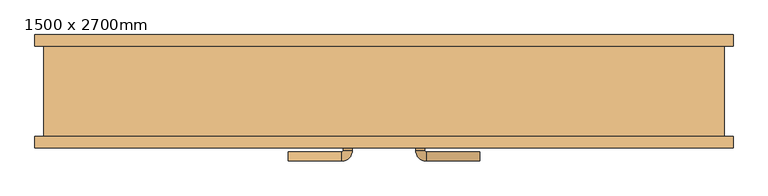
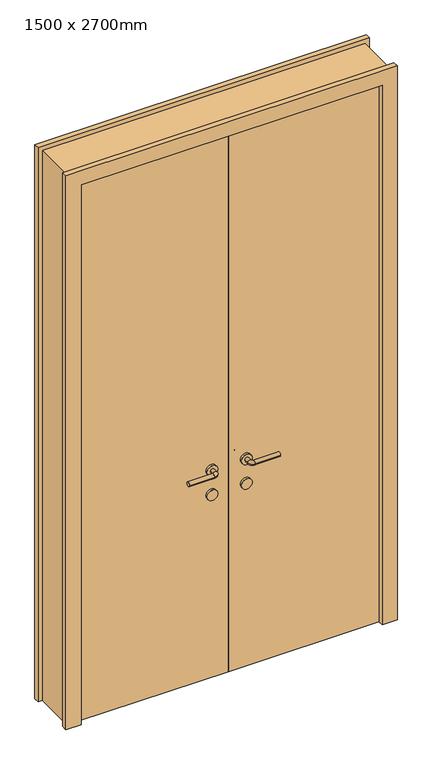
"""IFC4 building model written with IfcOpenShell, lengths in millimetres: door geometry, 双面嵌板木门 1 : 1500 x 2700mm."""

from ifc_helpers import new_model, si_unit, point, frame, frame_2d, origin, origin_with_axes, place, context, project, spatial, polyline, circle_curve, ellipse_curve, trimmed, segment, composite_curve, outline, extrude, source, transform, mapped, element, save
from ifc_brep_helpers import plane_surface, cylinder_surface, revolved_surface, advanced_brep


def door_1500_x_2700mm_deb20012(model_context):
    return source(origin(), model_context, "Body", "SolidModel", [
        extrude(outline(composite_curve([segment(trimmed(circle_curve(frame_2d((900.0, 80.0)), 25.0), [point((900.0, 105.0))], [point((900.0, 55.0))], False, "CARTESIAN"), True, "CONTINUOUS"), segment(trimmed(circle_curve(frame_2d((900.0, 80.0)), 25.0), [point((900.0, 55.0))], [point((900.0, 105.0))], False, "CARTESIAN"), True, "CONTINUOUS")], self_intersect=False)), frame((0.0, -110.0, 0.0), z_axis=(0.0, 1.0, 0.0), x_axis=(0.0, 0.0, 1.0)), (0.0, 0.0, 1.0), 10.0),
        extrude(outline(composite_curve([segment(trimmed(circle_curve(frame_2d((900.0, 80.0)), 25.0), [point((900.0, 105.0))], [point((900.0, 55.0))], False, "CARTESIAN"), True, "CONTINUOUS"), segment(trimmed(circle_curve(frame_2d((900.0, 80.0)), 25.0), [point((900.0, 55.0))], [point((900.0, 105.0))], False, "CARTESIAN"), True, "CONTINUOUS")], self_intersect=False)), frame((0.0, -60.0, 0.0), z_axis=(0.0, 1.0, 0.0), x_axis=(0.0, 0.0, 1.0)), (0.0, 0.0, 1.0), 10.0),
        advanced_brep(
        [(70.0, -110.0, 1020.0), (90.0, -110.0, 1020.0), (90.0, -130.6133551, 1020.0), (70.0, -130.6133551, 1020.0), (211.580964, -153.580964, 1020.0), (211.580964, -133.580964, 1020.0), (92.9676089, -133.580964, 1020.0), (92.9676089, -153.580964, 1020.0)],
        [
            (0, 1, circle_curve(frame((80.0, -110.0, 1020.0), z_axis=(0.0, 1.0, 0.0), x_axis=(1.0, 0.0, 0.0)), 10.0)),
            (1, 0, circle_curve(frame((80.0, -110.0, 1020.0), z_axis=(0.0, 1.0, 0.0), x_axis=(1.0, 0.0, 0.0)), 10.0)),
            (1, 2),
            (2, 3, circle_curve(frame((80.0, -130.6133551, 1020.0), z_axis=(0.0, 1.0, 0.0), x_axis=(1.0, 0.0, 0.0)), 10.0)),
            (3, 0),
            (3, 2, circle_curve(frame((80.0, -130.6133551, 1020.0), z_axis=(0.0, 1.0, 0.0), x_axis=(1.0, 0.0, 0.0)), 10.0)),
            (4, 5, circle_curve(frame((211.580964, -143.580964, 1020.0), z_axis=(1.0, 0.0, 0.0), x_axis=(0.0, 1.0, 0.0)), 10.0)),
            (5, 4, circle_curve(frame((211.580964, -143.580964, 1020.0), z_axis=(1.0, 0.0, 0.0), x_axis=(0.0, 1.0, 0.0)), 10.0)),
            (6, 2, circle_curve(frame((92.9676089, -130.6133551, 1020.0), z_axis=(0.0, 0.0, -1.0), x_axis=(-1.0, 0.0, 0.0)), 2.9676089)),
            (3, 7, circle_curve(frame((92.9676089, -130.6133551, 1020.0), z_axis=(0.0, 0.0, 1.0), x_axis=(-1.0, 0.0, 0.0)), 22.9676089)),
            (7, 6, circle_curve(frame((92.9676089, -143.580964, 1020.0), z_axis=(-1.0, 0.0, 0.0), x_axis=(0.0, 1.0, 0.0)), 10.0)),
            (6, 7, circle_curve(frame((92.9676089, -143.580964, 1020.0), z_axis=(-1.0, 0.0, 0.0), x_axis=(0.0, 1.0, 0.0)), 10.0)),
            (7, 4),
            (5, 6),
        ],
        [
            plane_surface(frame((80.0, -110.0, 900.0), z_axis=(0.0, 1.0, 0.0), x_axis=(0.0, 0.0, 1.0))),
            cylinder_surface(frame((80.0, -110.0, 1020.0), z_axis=(0.0, 1.0, 0.0), x_axis=(1.0, 0.0, 0.0)), 10.0),
            plane_surface(frame((211.580964, -143.580964, 900.0), z_axis=(1.0, 0.0, 0.0), x_axis=(0.0, 0.0, 1.0))),
            revolved_surface(trimmed(ellipse_curve(frame((80.0, -130.6133551, 1020.0), z_axis=(0.0, 1.0, 0.0), x_axis=(1.0, 0.0, 0.0)), 10.0, 10.0), [point((70.0, -130.6133551, 1020.0))], [point((90.0, -130.6133551, 1020.0))], True, "CARTESIAN"), (92.9676089, -130.6133551, 900.0), (0.0, 0.0, 1.0)),
            revolved_surface(trimmed(ellipse_curve(frame((80.0, -130.6133551, 1020.0), z_axis=(0.0, 1.0, 0.0), x_axis=(1.0, 0.0, 0.0)), 10.0, 10.0), [point((90.0, -130.6133551, 1020.0))], [point((70.0, -130.6133551, 1020.0))], True, "CARTESIAN"), (92.9676089, -130.6133551, 900.0), (0.0, 0.0, 1.0)),
            cylinder_surface(frame((92.9676089, -143.580964, 1020.0), z_axis=(-1.0, 0.0, 0.0), x_axis=(0.0, 1.0, 0.0)), 10.0),
        ],
        [
            (0, [[1, 2]]),
            (1, [[-2, 3, 4, 5]]),
            (1, [[-1, -5, 6, -3]]),
            (2, [[7, 8]]),
            (3, [[9, -6, 10, 11]]),
            (4, [[-10, -4, -9, 12]]),
            (5, [[-11, 13, -8, 14]]),
            (5, [[-12, -14, -7, -13]]),
        ],
    ),
        extrude(outline(composite_curve([segment(trimmed(circle_curve(frame_2d((1020.0, 80.0)), 25.0), [point((1020.0, 105.0))], [point((1020.0, 55.0))], False, "CARTESIAN"), True, "CONTINUOUS"), segment(trimmed(circle_curve(frame_2d((1020.0, 80.0)), 25.0), [point((1020.0, 55.0))], [point((1020.0, 105.0))], False, "CARTESIAN"), True, "CONTINUOUS")], self_intersect=False)), frame((0.0, -110.0, 0.0), z_axis=(0.0, 1.0, 0.0), x_axis=(0.0, 0.0, 1.0)), (0.0, 0.0, 1.0), 10.0),
        advanced_brep(
        [(90.0, -50.0, 1020.0), (70.0, -50.0, 1020.0), (90.0, -29.386645, 1020.0), (70.0, -29.386645, 1020.0), (211.580964, -26.419036, 1020.0), (211.580964, -6.419036, 1020.0), (92.9676089, -6.419036, 1020.0), (92.9676089, -26.419036, 1020.0)],
        [
            (0, 1, circle_curve(frame((80.0, -50.0, 1020.0), z_axis=(0.0, -1.0, 0.0), x_axis=(-1.0, 0.0, 0.0)), 10.0)),
            (1, 0, circle_curve(frame((80.0, -50.0, 1020.0), z_axis=(0.0, -1.0, 0.0), x_axis=(-1.0, 0.0, 0.0)), 10.0)),
            (0, 2),
            (2, 3, circle_curve(frame((80.0, -29.386645, 1020.0), z_axis=(0.0, -1.0, 0.0), x_axis=(-1.0, 0.0, 0.0)), 10.0)),
            (3, 1),
            (3, 2, circle_curve(frame((80.0, -29.386645, 1020.0), z_axis=(0.0, -1.0, 0.0), x_axis=(-1.0, 0.0, 0.0)), 10.0)),
            (4, 5, circle_curve(frame((211.580964, -16.419036, 1020.0), z_axis=(1.0, 0.0, 0.0), x_axis=(0.0, 1.0, 0.0)), 10.0)),
            (5, 4, circle_curve(frame((211.580964, -16.419036, 1020.0), z_axis=(1.0, 0.0, 0.0), x_axis=(0.0, 1.0, 0.0)), 10.0)),
            (6, 3, circle_curve(frame((92.9676089, -29.386645, 1020.0), z_axis=(0.0, 0.0, 1.0), x_axis=(-1.0, 0.0, 0.0)), 22.9676089)),
            (2, 7, circle_curve(frame((92.9676089, -29.386645, 1020.0), z_axis=(0.0, 0.0, -1.0), x_axis=(-1.0, 0.0, 0.0)), 2.9676089)),
            (7, 6, circle_curve(frame((92.9676089, -16.419036, 1020.0), z_axis=(-1.0, 0.0, 0.0), x_axis=(0.0, 1.0, 0.0)), 10.0)),
            (6, 7, circle_curve(frame((92.9676089, -16.419036, 1020.0), z_axis=(-1.0, 0.0, 0.0), x_axis=(0.0, 1.0, 0.0)), 10.0)),
            (7, 4),
            (5, 6),
        ],
        [
            plane_surface(frame((80.0, -50.0, 900.0), z_axis=(0.0, -1.0, 0.0), x_axis=(0.0, 0.0, 1.0))),
            cylinder_surface(frame((80.0, -50.0, 1020.0), z_axis=(0.0, -1.0, 0.0), x_axis=(-1.0, 0.0, 0.0)), 10.0),
            plane_surface(frame((211.580964, -16.419036, 900.0), z_axis=(1.0, 0.0, 0.0), x_axis=(0.0, 0.0, 1.0))),
            revolved_surface(trimmed(ellipse_curve(frame((80.0, -29.386645, 1020.0), z_axis=(0.0, -1.0, 0.0), x_axis=(-1.0, 0.0, 0.0)), 10.0, 10.0), [point((90.0, -29.386645, 1020.0))], [point((70.0, -29.386645, 1020.0))], True, "CARTESIAN"), (92.9676089, -29.386645, 900.0), (0.0, 0.0, -1.0)),
            revolved_surface(trimmed(ellipse_curve(frame((80.0, -29.386645, 1020.0), z_axis=(0.0, -1.0, 0.0), x_axis=(-1.0, 0.0, 0.0)), 10.0, 10.0), [point((70.0, -29.386645, 1020.0))], [point((90.0, -29.386645, 1020.0))], True, "CARTESIAN"), (92.9676089, -29.386645, 900.0), (0.0, 0.0, -1.0)),
            cylinder_surface(frame((92.9676089, -16.419036, 1020.0), z_axis=(-1.0, 0.0, 0.0), x_axis=(0.0, 1.0, 0.0)), 10.0),
        ],
        [
            (0, [[1, 2]]),
            (1, [[-1, 3, 4, 5]]),
            (1, [[-2, -5, 6, -3]]),
            (2, [[7, 8]]),
            (3, [[9, -4, 10, 11]]),
            (4, [[-10, -6, -9, 12]]),
            (5, [[-11, 13, -8, 14]]),
            (5, [[-12, -14, -7, -13]]),
        ],
    ),
        extrude(outline(composite_curve([segment(trimmed(circle_curve(frame_2d((1020.0, 80.0)), 25.0), [point((1020.0, 105.0))], [point((1020.0, 55.0))], False, "CARTESIAN"), True, "CONTINUOUS"), segment(trimmed(circle_curve(frame_2d((1020.0, 80.0)), 25.0), [point((1020.0, 55.0))], [point((1020.0, 105.0))], False, "CARTESIAN"), True, "CONTINUOUS")], self_intersect=False)), frame((0.0, -60.0, 0.0), z_axis=(0.0, 1.0, 0.0), x_axis=(0.0, 0.0, 1.0)), (0.0, 0.0, 1.0), 10.0),
        extrude(outline(composite_curve([segment(trimmed(circle_curve(frame_2d((900.0, -80.0)), 25.0), [point((900.0, -105.0))], [point((900.0, -55.0))], False, "CARTESIAN"), True, "CONTINUOUS"), segment(trimmed(circle_curve(frame_2d((900.0, -80.0)), 25.0), [point((900.0, -55.0))], [point((900.0, -105.0))], False, "CARTESIAN"), True, "CONTINUOUS")], self_intersect=False)), frame((0.0, -110.0, 0.0), z_axis=(0.0, 1.0, 0.0), x_axis=(0.0, 0.0, 1.0)), (0.0, 0.0, 1.0), 10.0),
        extrude(outline(composite_curve([segment(trimmed(circle_curve(frame_2d((900.0, -80.0)), 25.0), [point((900.0, -105.0))], [point((900.0, -55.0))], False, "CARTESIAN"), True, "CONTINUOUS"), segment(trimmed(circle_curve(frame_2d((900.0, -80.0)), 25.0), [point((900.0, -55.0))], [point((900.0, -105.0))], False, "CARTESIAN"), True, "CONTINUOUS")], self_intersect=False)), frame((0.0, -60.0, 0.0), z_axis=(0.0, 1.0, 0.0), x_axis=(0.0, 0.0, 1.0)), (0.0, 0.0, 1.0), 10.0),
        advanced_brep(
        [(-70.0, -110.0, 1020.0), (-90.0, -110.0, 1020.0), (-70.0, -130.6133551, 1020.0), (-90.0, -130.6133551, 1020.0), (-211.580964, -153.580964, 1020.0), (-211.580964, -133.580964, 1020.0), (-92.9676089, -133.580964, 1020.0), (-92.9676089, -153.580964, 1020.0)],
        [
            (0, 1, circle_curve(frame((-80.0, -110.0, 1020.0), z_axis=(0.0, 1.0, 0.0), x_axis=(-1.0, 0.0, 0.0)), 10.0)),
            (1, 0, circle_curve(frame((-80.0, -110.0, 1020.0), z_axis=(0.0, 1.0, 0.0), x_axis=(-1.0, 0.0, 0.0)), 10.0)),
            (0, 2),
            (2, 3, circle_curve(frame((-80.0, -130.6133551, 1020.0), z_axis=(0.0, 1.0, 0.0), x_axis=(-1.0, 0.0, 0.0)), 10.0)),
            (3, 1),
            (3, 2, circle_curve(frame((-80.0, -130.6133551, 1020.0), z_axis=(0.0, 1.0, 0.0), x_axis=(-1.0, 0.0, 0.0)), 10.0)),
            (4, 5, circle_curve(frame((-211.580964, -143.580964, 1020.0), z_axis=(-1.0, 0.0, 0.0), x_axis=(0.0, 1.0, 0.0)), 10.0)),
            (5, 4, circle_curve(frame((-211.580964, -143.580964, 1020.0), z_axis=(-1.0, 0.0, 0.0), x_axis=(0.0, 1.0, 0.0)), 10.0)),
            (6, 7, circle_curve(frame((-92.9676089, -143.580964, 1020.0), z_axis=(1.0, 0.0, 0.0), x_axis=(0.0, 1.0, 0.0)), 10.0)),
            (7, 2, circle_curve(frame((-92.9676089, -130.6133551, 1020.0), z_axis=(0.0, 0.0, 1.0), x_axis=(1.0, 0.0, 0.0)), 22.9676089)),
            (3, 6, circle_curve(frame((-92.9676089, -130.6133551, 1020.0), z_axis=(0.0, 0.0, -1.0), x_axis=(1.0, 0.0, 0.0)), 2.9676089)),
            (7, 6, circle_curve(frame((-92.9676089, -143.580964, 1020.0), z_axis=(1.0, 0.0, 0.0), x_axis=(0.0, 1.0, 0.0)), 10.0)),
            (6, 5),
            (4, 7),
        ],
        [
            plane_surface(frame((-80.0, -110.0, 900.0), z_axis=(0.0, 1.0, 0.0), x_axis=(0.0, 0.0, 1.0))),
            cylinder_surface(frame((-80.0, -110.0, 1020.0), z_axis=(0.0, 1.0, 0.0), x_axis=(-1.0, 0.0, 0.0)), 10.0),
            plane_surface(frame((-211.580964, -143.580964, 900.0), z_axis=(-1.0, 0.0, 0.0), x_axis=(0.0, 0.0, 1.0))),
            revolved_surface(trimmed(ellipse_curve(frame((-80.0, -130.6133551, 1020.0), z_axis=(0.0, -1.0, 0.0), x_axis=(-1.0, 0.0, 0.0)), 10.0, 10.0), [point((-70.0, -130.6133551, 1020.0))], [point((-90.0, -130.6133551, 1020.0))], True, "CARTESIAN"), (-92.9676089, -130.6133551, 900.0), (0.0, 0.0, 1.0)),
            revolved_surface(trimmed(ellipse_curve(frame((-80.0, -130.6133551, 1020.0), z_axis=(0.0, -1.0, 0.0), x_axis=(-1.0, 0.0, 0.0)), 10.0, 10.0), [point((-90.0, -130.6133551, 1020.0))], [point((-70.0, -130.6133551, 1020.0))], True, "CARTESIAN"), (-92.9676089, -130.6133551, 900.0), (0.0, 0.0, 1.0)),
            cylinder_surface(frame((-92.9676089, -143.580964, 1020.0), z_axis=(1.0, 0.0, 0.0), x_axis=(0.0, 1.0, 0.0)), 10.0),
        ],
        [
            (0, [[1, 2]]),
            (1, [[3, 4, 5, -1]]),
            (1, [[-5, 6, -3, -2]]),
            (2, [[7, 8]]),
            (3, [[9, 10, -6, 11]]),
            (4, [[12, -11, -4, -10]]),
            (5, [[13, -7, 14, -9]]),
            (5, [[-14, -8, -13, -12]]),
        ],
    ),
        extrude(outline(composite_curve([segment(trimmed(circle_curve(frame_2d((1020.0, -80.0)), 25.0), [point((1020.0, -105.0))], [point((1020.0, -55.0))], False, "CARTESIAN"), True, "CONTINUOUS"), segment(trimmed(circle_curve(frame_2d((1020.0, -80.0)), 25.0), [point((1020.0, -55.0))], [point((1020.0, -105.0))], False, "CARTESIAN"), True, "CONTINUOUS")], self_intersect=False)), frame((0.0, -110.0, 0.0), z_axis=(0.0, 1.0, 0.0), x_axis=(0.0, 0.0, 1.0)), (0.0, 0.0, 1.0), 10.0),
        advanced_brep(
        [(-90.0, -50.0, 1020.0), (-70.0, -50.0, 1020.0), (-70.0, -29.386645, 1020.0), (-90.0, -29.386645, 1020.0), (-211.580964, -26.419036, 1020.0), (-211.580964, -6.419036, 1020.0), (-92.9676089, -6.419036, 1020.0), (-92.9676089, -26.419036, 1020.0)],
        [
            (0, 1, circle_curve(frame((-80.0, -50.0, 1020.0), z_axis=(0.0, -1.0, 0.0), x_axis=(1.0, 0.0, 0.0)), 10.0)),
            (1, 0, circle_curve(frame((-80.0, -50.0, 1020.0), z_axis=(0.0, -1.0, 0.0), x_axis=(1.0, 0.0, 0.0)), 10.0)),
            (1, 2),
            (2, 3, circle_curve(frame((-80.0, -29.386645, 1020.0), z_axis=(0.0, -1.0, 0.0), x_axis=(1.0, 0.0, 0.0)), 10.0)),
            (3, 0),
            (3, 2, circle_curve(frame((-80.0, -29.386645, 1020.0), z_axis=(0.0, -1.0, 0.0), x_axis=(1.0, 0.0, 0.0)), 10.0)),
            (4, 5, circle_curve(frame((-211.580964, -16.419036, 1020.0), z_axis=(-1.0, 0.0, 0.0), x_axis=(0.0, 1.0, 0.0)), 10.0)),
            (5, 4, circle_curve(frame((-211.580964, -16.419036, 1020.0), z_axis=(-1.0, 0.0, 0.0), x_axis=(0.0, 1.0, 0.0)), 10.0)),
            (6, 7, circle_curve(frame((-92.9676089, -16.419036, 1020.0), z_axis=(1.0, 0.0, 0.0), x_axis=(0.0, 1.0, 0.0)), 10.0)),
            (7, 3, circle_curve(frame((-92.9676089, -29.386645, 1020.0), z_axis=(0.0, 0.0, -1.0), x_axis=(1.0, 0.0, 0.0)), 2.9676089)),
            (2, 6, circle_curve(frame((-92.9676089, -29.386645, 1020.0), z_axis=(0.0, 0.0, 1.0), x_axis=(1.0, 0.0, 0.0)), 22.9676089)),
            (7, 6, circle_curve(frame((-92.9676089, -16.419036, 1020.0), z_axis=(1.0, 0.0, 0.0), x_axis=(0.0, 1.0, 0.0)), 10.0)),
            (6, 5),
            (4, 7),
        ],
        [
            plane_surface(frame((-80.0, -50.0, 900.0), z_axis=(0.0, -1.0, 0.0), x_axis=(0.0, 0.0, 1.0))),
            cylinder_surface(frame((-80.0, -50.0, 1020.0), z_axis=(0.0, -1.0, 0.0), x_axis=(1.0, 0.0, 0.0)), 10.0),
            plane_surface(frame((-211.580964, -16.419036, 900.0), z_axis=(-1.0, 0.0, 0.0), x_axis=(0.0, 0.0, 1.0))),
            revolved_surface(trimmed(ellipse_curve(frame((-80.0, -29.386645, 1020.0), z_axis=(0.0, 1.0, 0.0), x_axis=(1.0, 0.0, 0.0)), 10.0, 10.0), [point((-90.0, -29.386645, 1020.0))], [point((-70.0, -29.386645, 1020.0))], True, "CARTESIAN"), (-92.9676089, -29.386645, 900.0), (0.0, 0.0, -1.0)),
            revolved_surface(trimmed(ellipse_curve(frame((-80.0, -29.386645, 1020.0), z_axis=(0.0, 1.0, 0.0), x_axis=(1.0, 0.0, 0.0)), 10.0, 10.0), [point((-70.0, -29.386645, 1020.0))], [point((-90.0, -29.386645, 1020.0))], True, "CARTESIAN"), (-92.9676089, -29.386645, 900.0), (0.0, 0.0, -1.0)),
            cylinder_surface(frame((-92.9676089, -16.419036, 1020.0), z_axis=(1.0, 0.0, 0.0), x_axis=(0.0, 1.0, 0.0)), 10.0),
        ],
        [
            (0, [[1, 2]]),
            (1, [[3, 4, 5, -2]]),
            (1, [[-5, 6, -3, -1]]),
            (2, [[7, 8]]),
            (3, [[9, 10, -4, 11]]),
            (4, [[12, -11, -6, -10]]),
            (5, [[13, -7, 14, -9]]),
            (5, [[-14, -8, -13, -12]]),
        ],
    ),
        extrude(outline(composite_curve([segment(trimmed(circle_curve(frame_2d((1020.0, -80.0)), 25.0), [point((1020.0, -105.0))], [point((1020.0, -55.0))], False, "CARTESIAN"), True, "CONTINUOUS"), segment(trimmed(circle_curve(frame_2d((1020.0, -80.0)), 25.0), [point((1020.0, -55.0))], [point((1020.0, -105.0))], False, "CARTESIAN"), True, "CONTINUOUS")], self_intersect=False)), frame((0.0, -60.0, 0.0), z_axis=(0.0, 1.0, 0.0), x_axis=(0.0, 0.0, 1.0)), (0.0, 0.0, 1.0), 10.0),
        extrude(outline(polyline([(0.0, 770.0), (2720.0, 770.0), (2720.0, -770.0), (0.0, -770.0), (0.0, -700.0), (2650.0, -700.0), (2650.0, 700.0), (0.0, 700.0), (0.0, 770.0)])), frame((0.0, -125.0, 0.0), z_axis=(0.0, 1.0, 0.0), x_axis=(0.0, 0.0, 1.0)), (0.0, 0.0, 1.0), 25.0),
        extrude(outline(polyline([(2720.0, 770.0), (2720.0, -770.0), (0.0, -770.0), (0.0, -700.0), (2650.0, -700.0), (2650.0, 700.0), (0.0, 700.0), (0.0, 770.0), (2720.0, 770.0)])), frame((0.0, 100.0, 0.0), z_axis=(0.0, 1.0, 0.0), x_axis=(0.0, 0.0, 1.0)), (0.0, 0.0, 1.0), 25.0),
        extrude(outline(polyline([(700.0, -60.0), (700.0, -100.0), (0.0, -100.0), (0.0, -60.0), (700.0, -60.0)])), origin_with_axes(), (0.0, 0.0, 1.0), 2650.0),
        extrude(outline(polyline([(0.0, -60.0), (0.0, -100.0), (-700.0, -100.0), (-700.0, -60.0), (0.0, -60.0)])), origin_with_axes(), (0.0, 0.0, 1.0), 2650.0),
        extrude(outline(polyline([(2700.0, -750.0), (0.0, -750.0), (0.0, -700.0), (2650.0, -700.0), (2650.0, 700.0), (0.0, 700.0), (0.0, 750.0), (2700.0, 750.0), (2700.0, -750.0)])), frame((0.0, -100.0, 0.0), z_axis=(0.0, 1.0, 0.0), x_axis=(0.0, 0.0, 1.0)), (0.0, 0.0, 1.0), 200.0),
    ])


if __name__ == "__main__":
    model = new_model("IFC4")
    model_context = context("Model", 3, world=origin())
    ifc_project = project(units=[si_unit("LENGTHUNIT", "METRE", prefix="MILLI")], contexts=[model_context])
    site = spatial("IfcSite", under=ifc_project)
    building = spatial("IfcBuilding", under=site)
    placement = place(None, origin())
    door_1500_x_2700mm_shape = door_1500_x_2700mm_deb20012(model_context)
    element("IfcDoor", 1, ObjectType="双面嵌板木门 1 : 1500 x 2700mm", at=placement, inside=building, context=model_context, shape_type="MappedRepresentation", body=[
        mapped(door_1500_x_2700mm_shape, transform((0.0, 0.0, 0.0), x_axis=(1.0, 0.0, 0.0), y_axis=(0.0, 1.0, 0.0), z_axis=(0.0, 0.0, 1.0))),
    ])
    save(model, "model.ifc")
